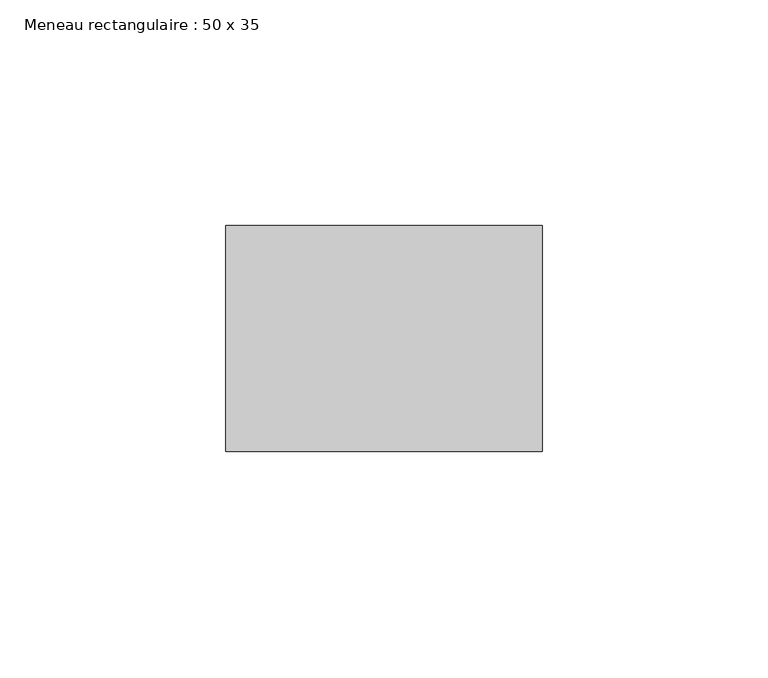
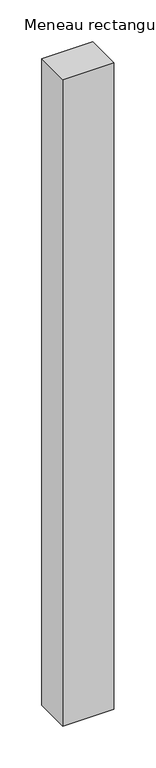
"""IFC4 building model written with IfcOpenShell, lengths in millimetres: member geometry, Meneau rectangulaire : 50 x 35."""

from ifc_helpers import new_model, si_unit, frame, origin, place, context, project, spatial, polyline, outline, extrude, source, transform, mapped, element, save


def meneau_rectangulaire_50_x_35_d0448cab(model_context):
    return source(origin(), model_context, "Body", "SweptSolid", [
        extrude(outline(polyline([(35.0, 0.0), (35.0, -50.0), (-35.0, -50.0), (-35.0, 0.0), (35.0, 0.0)])), frame((0.0, 0.0, -941.125742), z_axis=(0.0, 0.0, 1.0), x_axis=(1.0, 0.0, 0.0)), (0.0, 0.0, 1.0), 941.125742),
    ])


if __name__ == "__main__":
    model = new_model("IFC4")
    model_context = context("Model", 3, world=origin())
    ifc_project = project(units=[si_unit("LENGTHUNIT", "METRE", prefix="MILLI")], contexts=[model_context])
    site = spatial("IfcSite", under=ifc_project)
    building = spatial("IfcBuilding", under=site)
    placement = place(None, origin())
    meneau_rectangulaire_50_x_35_shape = meneau_rectangulaire_50_x_35_d0448cab(model_context)
    element("IfcMember", 1, ObjectType="Meneau rectangulaire : 50 x 35", at=placement, inside=building, context=model_context, shape_type="MappedRepresentation", body=[
        mapped(meneau_rectangulaire_50_x_35_shape, transform((0.0, 0.0, 0.0), x_axis=(1.0, 0.0, 0.0), y_axis=(0.0, 1.0, 0.0), z_axis=(0.0, 0.0, 1.0))),
    ])
    save(model, "model.ifc")
